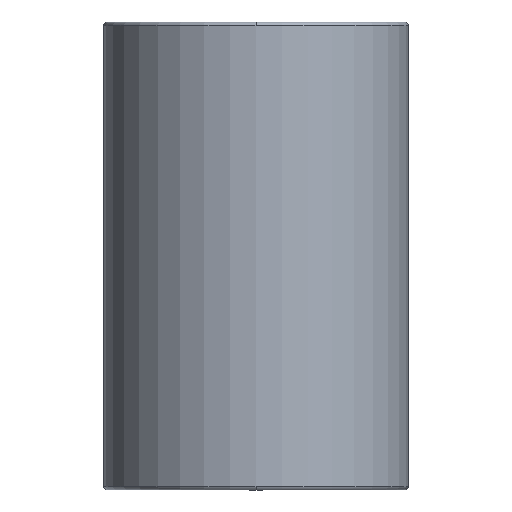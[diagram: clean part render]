
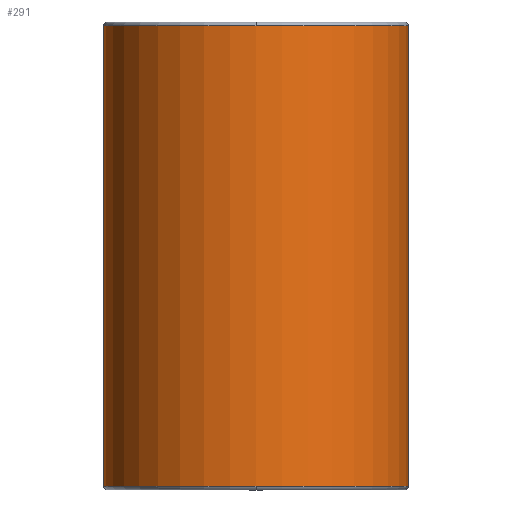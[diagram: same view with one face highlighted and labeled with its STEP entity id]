
A CAD part, front view. The second image highlights one B-rep face of the part: STEP entity #291.
In plain terms, the highlighted cylindrical face has radius 15.625 mm (diameter 31.25 mm), a partial arc.
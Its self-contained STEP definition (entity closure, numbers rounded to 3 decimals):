
#196=CARTESIAN_POINT('',(0.0,-15.625,30.1));
#197=VERTEX_POINT('',#196);
#223=CARTESIAN_POINT('',(-15.625,0.,30.1));
#224=VERTEX_POINT('',#223);
#232=CARTESIAN_POINT('',(0.0,0.,30.1));
#233=DIRECTION('',(0.0,0.0,1.0));
#234=DIRECTION('',(1.0,0.0,0.0));
#235=AXIS2_PLACEMENT_3D('',#232,#233,#234);
#236=CIRCLE('',#235,15.625);
#237=EDGE_CURVE('',#224,#197,#236,.T.);
#242=CARTESIAN_POINT('',(0.0,0.,6.5));
#243=DIRECTION('',(0.0,0.,1.0));
#244=DIRECTION('',(1.0,0.0,0.0));
#245=AXIS2_PLACEMENT_3D('',#242,#243,#244);
#246=CYLINDRICAL_SURFACE('',#245,15.625);
#247=CARTESIAN_POINT('',(15.625,0.,30.1));
#248=VERTEX_POINT('',#247);
#249=CARTESIAN_POINT('',(15.625,0.,-17.1));
#250=VERTEX_POINT('',#249);
#251=CARTESIAN_POINT('',(15.625,0.,30.1));
#252=DIRECTION('',(0.0,0.0,-1.0));
#253=VECTOR('',#252,47.2);
#254=LINE('',#251,#253);
#255=EDGE_CURVE('',#248,#250,#254,.T.);
#256=ORIENTED_EDGE('',*,*,#255,.F.);
#257=CARTESIAN_POINT('',(0.0,0.,30.1));
#258=DIRECTION('',(0.0,0.0,1.0));
#259=DIRECTION('',(1.0,0.0,0.0));
#260=AXIS2_PLACEMENT_3D('',#257,#258,#259);
#261=CIRCLE('',#260,15.625);
#262=EDGE_CURVE('',#197,#248,#261,.T.);
#263=ORIENTED_EDGE('',*,*,#262,.F.);
#264=ORIENTED_EDGE('',*,*,#237,.F.);
#265=CARTESIAN_POINT('',(-15.625,0.,-17.1));
#266=VERTEX_POINT('',#265);
#267=CARTESIAN_POINT('',(-15.625,0.,30.1));
#268=DIRECTION('',(0.0,0.0,-1.0));
#269=VECTOR('',#268,47.2);
#270=LINE('',#267,#269);
#271=EDGE_CURVE('',#224,#266,#270,.T.);
#272=ORIENTED_EDGE('',*,*,#271,.T.);
#273=CARTESIAN_POINT('',(0.0,-15.625,-17.1));
#274=VERTEX_POINT('',#273);
#275=CARTESIAN_POINT('',(0.0,0.,-17.1));
#276=DIRECTION('',(0.0,0.0,1.0));
#277=DIRECTION('',(1.0,0.0,0.0));
#278=AXIS2_PLACEMENT_3D('',#275,#276,#277);
#279=CIRCLE('',#278,15.625);
#280=EDGE_CURVE('',#266,#274,#279,.T.);
#281=ORIENTED_EDGE('',*,*,#280,.T.);
#282=CARTESIAN_POINT('',(0.0,0.,-17.1));
#283=DIRECTION('',(0.0,0.0,1.0));
#284=DIRECTION('',(1.0,0.0,0.0));
#285=AXIS2_PLACEMENT_3D('',#282,#283,#284);
#286=CIRCLE('',#285,15.625);
#287=EDGE_CURVE('',#274,#250,#286,.T.);
#288=ORIENTED_EDGE('',*,*,#287,.T.);
#289=EDGE_LOOP('',(#256,#263,#264,#272,#281,#288));
#290=FACE_OUTER_BOUND('',#289,.T.);
#291=ADVANCED_FACE('',(#290),#246,.T.);
